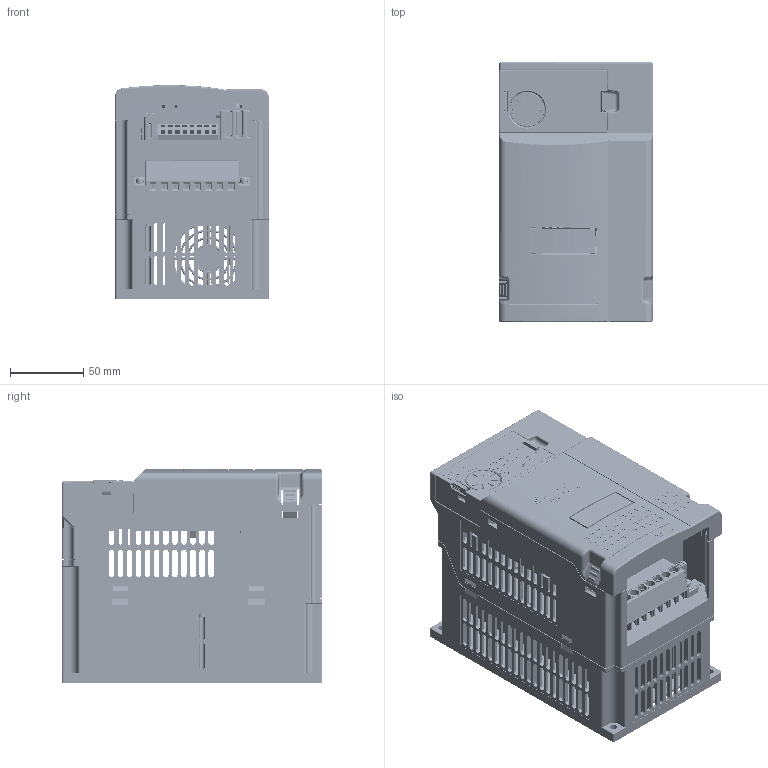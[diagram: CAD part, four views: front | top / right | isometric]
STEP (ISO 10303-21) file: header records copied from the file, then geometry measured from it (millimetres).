
FILE_DESCRIPTION((''),'2;1');
FILE_NAME('C:\Documents and Settings\Administrator\袤醱\SE3-B(褫莞).stp','2018-03-09T11:17:25',('Administrator'),(''),'Autodesk Inventor 8','Autodesk Inventor 8','');
FILE_SCHEMA(('AUTOMOTIVE_DESIGN { 1 0 10303 214 1 1 1 1 }'));
Length unit declared in the file: millimetre
Products named in the file (49): B遺殤郪蕾芞; 散热器; 紱釬ん-諷秶啣郪蕾; 紱釬ん郪蕾; 紱釬ん價啣; SC3-A_X2_65CB94AE5E3D_X0_; linker_YH-SMT01_SS980T03211C; 狟裔; E1-5028AHR1; PU302俋褲; PU302情臚羲壽霧啣; ｱ｡ﾄ､ｿｪｹﾘﾃ嵓蘋ﾐﾞｸﾄ; 薄膜开关铭板字符; 驱动板显示器字符（1; Part2; 諷秶啣郪蕾; 諷秶啣價啣; 蟀諉璃_YH-55-05-5521-8P_SS980P11001; 尥翹蟀諉ん_X2_8FDE63A54EF6_X0__SS880P15070A; 8P; 3P; 樟萇ん_PCH-124D2H_X2_6CF0514B7EE775355668_X0_; 價啣傷赽; 2P; 諷秶啣諉華盓翐; ESPQWY-1179-1; 24pin6740-xxmopx-xxx-x-a; 奻裔; 笢褲; 瑞圮裔; 043-3; TJ952-06_ASM_38_ASM; TJ952-06_2_ASM_12_ASM; TJ952-06_M3_BLOCK_1; TJ952-06_SCREW_7; TJ952-06_3_ASM_11_ASM; TJ952-06_3_1_19; TJ952-06_1_23; 952-06-TR; PCB傷赽_PR5-52 6X8X10_M3_SK105D04601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
Assembly tree (66 placements, depth 5):
  B遺殤郪蕾芞
    散热器
    紱釬ん-諷秶啣郪蕾
      紱釬ん郪蕾
        紱釬ん價啣
        SC3-A_X2_65CB94AE5E3D_X0_
        linker_YH-SMT01_SS980T03211C
        狟裔
        E1-5028AHR1
        PU302俋褲
        PU302情臚羲壽霧啣
          ｱ｡ﾄ､ｿｪｹﾘﾃ嵓蘋ﾐﾞｸﾄ
          薄膜开关铭板字符
          驱动板显示器字符（1
          Part2
      諷秶啣郪蕾
        諷秶啣價啣
        蟀諉璃_YH-55-05-5521-8P_SS980P11001
        尥翹蟀諉ん_X2_8FDE63A54EF6_X0__SS880P15070A
        8P  x2
        3P
        樟萇ん_PCH-124D2H_X2_6CF0514B7EE775355668_X0_
        價啣傷赽
        2P
        諷秶啣諉華盓翐
      ESPQWY-1179-1
      24pin6740-xxmopx-xxx-x-a
    奻裔
    笢褲
    瑞圮裔
    043-3
      043-3
      TJ952-06_ASM_38_ASM
        TJ952-06_2_ASM_12_ASM  x6
          TJ952-06_M3_BLOCK_1
          TJ952-06_SCREW_7
        TJ952-06_3_ASM_11_ASM  x4
          TJ952-06_3_1_19
          TJ952-06_M3_BLOCK_1
          TJ952-06_SCREW_7
        TJ952-06_1_23
        952-06-TR  x4
      PCB傷赽_PR5-52 6X8X10_M3_SK105D04601  x2
    043电容板组立
      电容板
      價啣傷赽_10mm  x3
    B呿蝶菁釱-蜊
    M3×10_S0301310  x2
      NF E 25-510 CL 5 x 11A
      NF E 25-515  W W3A
      UNI EN ISO 7045  H  (ぱ籵蹟恇) M3 x  10 - 4.8 - H
Bounding box: 105.11 x 178.06 x 146.11 mm (x, y, z)
Volume: 533702.4 mm3; surface area: 593864.7 mm2
Topology: 115 solids, 115 shells, 17072 faces, 47855 edges, 31162 vertices
Faces by surface type: plane 8899, cylinder 7031, bspline 621, cone 444, sphere 77
Entity records: 525117 total; most frequent: CARTESIAN_POINT 143441, ORIENTED_EDGE 81140, DIRECTION 78118, EDGE_CURVE 40570, VECTOR 26812, LINE 26812, VERTEX_POINT 26506, AXIS2_PLACEMENT_3D 25653
